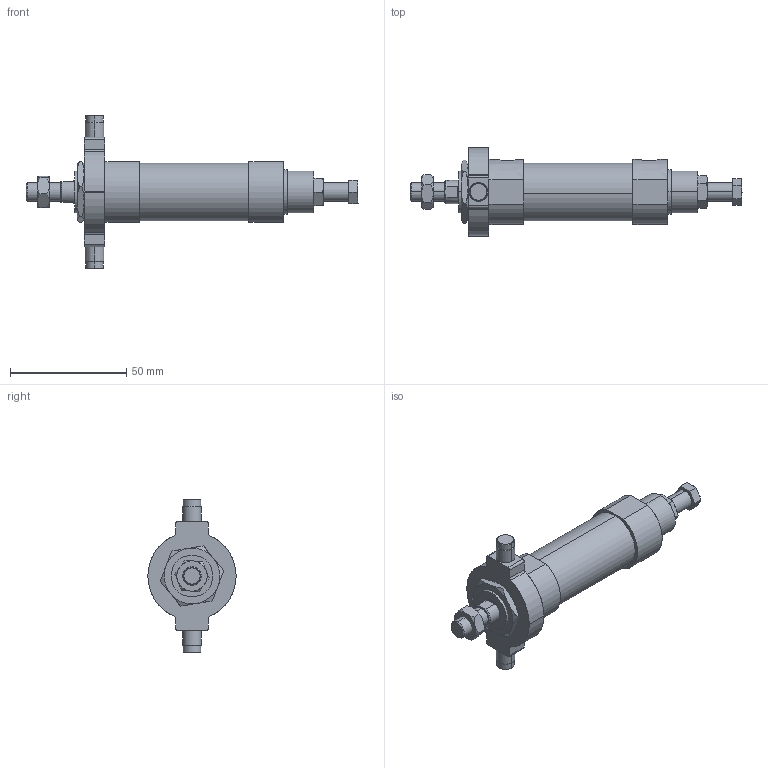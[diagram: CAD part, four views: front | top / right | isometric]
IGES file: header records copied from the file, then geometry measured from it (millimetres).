
Start section: SolidWorks IGES file using analytic representation for surfaces
Global section: file name: C:\Users\Toshiba\Desktop\JGA2-20-15-T.IGS; native system: SolidWorks 2014; preprocessor: SolidWorks 2014; author: Toshiba; date: 160420.130534; units: millimetre
Bounding box: 143 x 38 x 66 mm (x, y, z)
Surface area: 18798 mm2 (no closed solid volume)
Topology: 0 solids, 0 shells, 160 faces, 2608 edges, 2608 vertices
Faces by surface type: bspline 99, revolution 61
